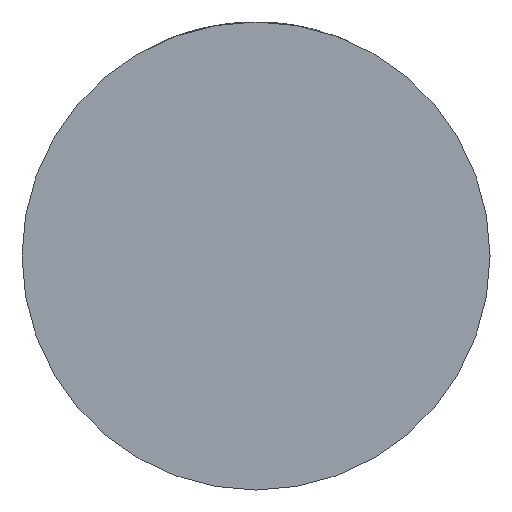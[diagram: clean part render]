
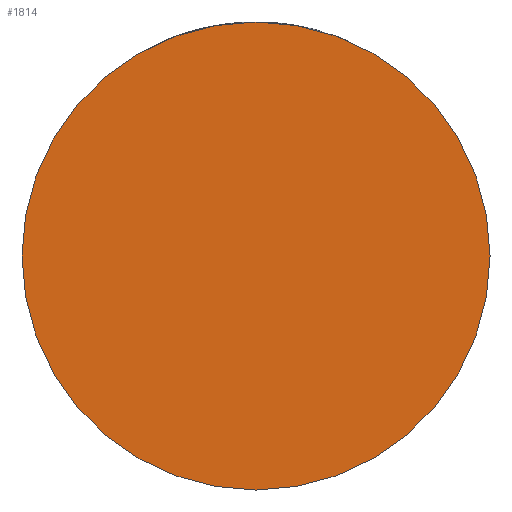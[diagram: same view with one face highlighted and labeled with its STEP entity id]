
A CAD part, front view. The second image highlights one B-rep face of the part: STEP entity #1814.
In plain terms, the highlighted planar face has unit normal (0, -1, 0).
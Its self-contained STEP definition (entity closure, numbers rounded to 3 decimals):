
#140 = DIRECTION ( 'NONE',  ( 1., 0., 0. ) ) ;
#385 = CARTESIAN_POINT ( 'NONE',  ( 0., -25., 0. ) ) ;
#425 = DIRECTION ( 'NONE',  ( 0., -1., 0. ) ) ;
#608 = DIRECTION ( 'NONE',  ( 1., 0., 0. ) ) ;
#990 = ORIENTED_EDGE ( 'NONE', *, *, #1915, .T. ) ;
#1444 = AXIS2_PLACEMENT_3D ( 'NONE', #385, #1741, #4137 ) ;
#1741 = DIRECTION ( 'NONE',  ( 0., -1., 0. ) ) ;
#1802 = CARTESIAN_POINT ( 'NONE',  ( 32., -25., 0. ) ) ;
#1807 = CARTESIAN_POINT ( 'NONE',  ( 0., -25., 0. ) ) ;
#1814 = ADVANCED_FACE ( 'NONE', ( #4182 ), #3445, .T. ) ;
#1915 = EDGE_CURVE ( 'NONE', #2103, #3561, #3372, .T. ) ;
#1937 = CARTESIAN_POINT ( 'NONE',  ( -32., -25., 0. ) ) ;
#1942 = CIRCLE ( 'NONE', #3516, 32. ) ;
#2103 = VERTEX_POINT ( 'NONE', #1802 ) ;
#2244 = CARTESIAN_POINT ( 'NONE',  ( 0., -25., 0. ) ) ;
#3154 = EDGE_LOOP ( 'NONE', ( #4369, #990 ) ) ;
#3372 = CIRCLE ( 'NONE', #1444, 32. ) ;
#3445 = PLANE ( 'NONE',  #4017 ) ;
#3516 = AXIS2_PLACEMENT_3D ( 'NONE', #2244, #3673, #608 ) ;
#3561 = VERTEX_POINT ( 'NONE', #1937 ) ;
#3673 = DIRECTION ( 'NONE',  ( 0., -1., 0. ) ) ;
#3865 = EDGE_CURVE ( 'NONE', #3561, #2103, #1942, .T. ) ;
#4017 = AXIS2_PLACEMENT_3D ( 'NONE', #1807, #425, #140 ) ;
#4137 = DIRECTION ( 'NONE',  ( 1., 0., 0. ) ) ;
#4182 = FACE_OUTER_BOUND ( 'NONE', #3154, .T. ) ;
#4369 = ORIENTED_EDGE ( 'NONE', *, *, #3865, .T. ) ;
